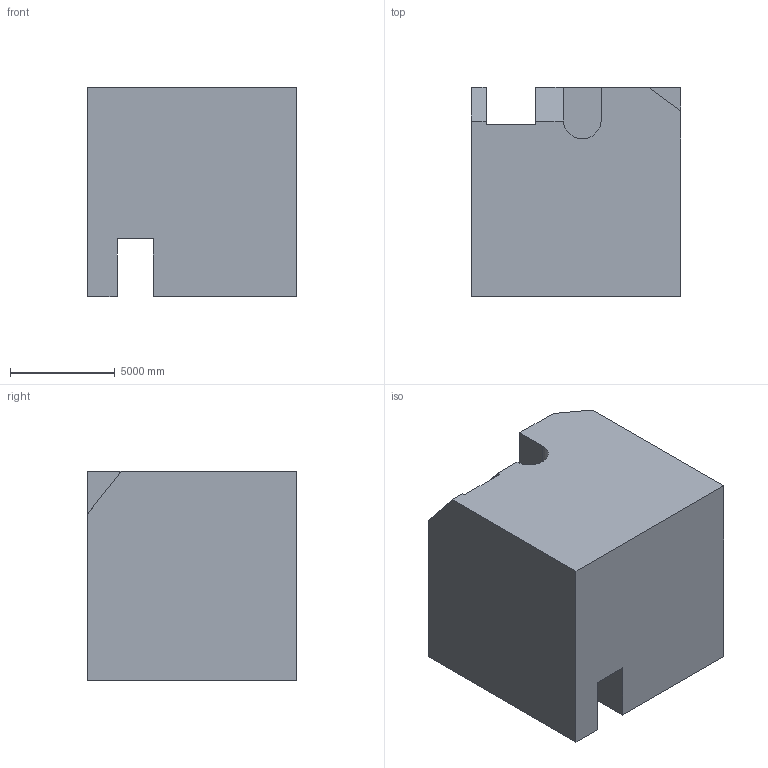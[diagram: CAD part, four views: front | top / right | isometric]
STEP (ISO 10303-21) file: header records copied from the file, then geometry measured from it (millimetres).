
FILE_DESCRIPTION (( 'STEP AP203' ), '1' );
FILE_NAME ('86.STEP', '2022-08-31T11:28:57', ( 'user' ), ( '' ), 'SwSTEP 2.0', 'SolidWorks 2021', '' );
FILE_SCHEMA (( 'CONFIG_CONTROL_DESIGN' ));
Length unit declared in the file: centimetre
Products named in the file (1): 86
Bounding box: 10000 x 10000 x 10000 mm (x, y, z)
Volume: 884961689867.3 mm3; surface area: 675443720.2 mm2
Topology: 1 solids, 1 shells, 22 faces, 60 edges, 40 vertices
Faces by surface type: plane 21, cylinder 1
Entity records: 763 total; most frequent: CARTESIAN_POINT 126, ORIENTED_EDGE 120, DIRECTION 107, EDGE_CURVE 60, VECTOR 57, LINE 57, VERTEX_POINT 40, AXIS2_PLACEMENT_3D 25
